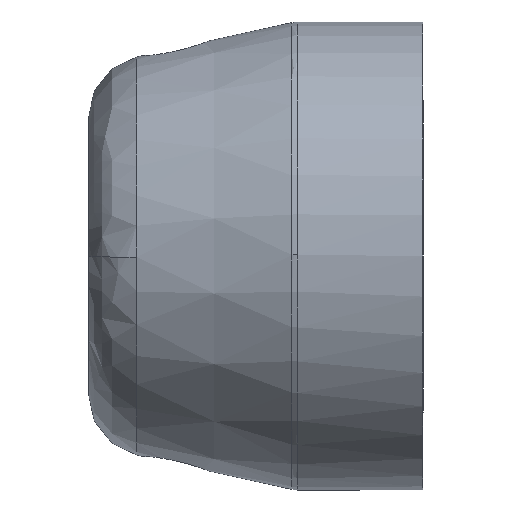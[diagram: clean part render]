
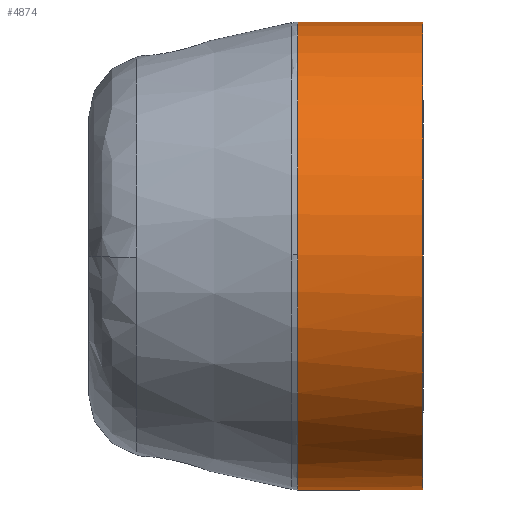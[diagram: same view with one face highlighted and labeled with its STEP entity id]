
A CAD part, left-side view. The second image highlights one B-rep face of the part: STEP entity #4874.
In plain terms, the highlighted cylindrical face has radius 42 mm (diameter 84 mm), a partial arc.
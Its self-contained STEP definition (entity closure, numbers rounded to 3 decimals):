
#183 = EDGE_CURVE ( 'NONE', #5568, #3675, #4997, .T. ) ;
#279 = DIRECTION ( 'NONE',  ( 0., 1., 0. ) ) ;
#317 = CARTESIAN_POINT ( 'NONE',  ( 0., -37.548, 42. ) ) ;
#318 = EDGE_CURVE ( 'NONE', #2990, #3675, #5541, .T. ) ;
#514 = CARTESIAN_POINT ( 'NONE',  ( 0., -60., 42. ) ) ;
#522 = EDGE_CURVE ( 'NONE', #3666, #4018, #4357, .T. ) ;
#532 = FACE_OUTER_BOUND ( 'NONE', #5843, .T. ) ;
#584 = CARTESIAN_POINT ( 'NONE',  ( 0., 0., 0. ) ) ;
#889 = DIRECTION ( 'NONE',  ( 0., 1., 0. ) ) ;
#1080 = DIRECTION ( 'NONE',  ( 0., 0., 1. ) ) ;
#1663 = AXIS2_PLACEMENT_3D ( 'NONE', #4792, #1969, #5262 ) ;
#1803 = VECTOR ( 'NONE', #889, 1000. ) ;
#1943 = CARTESIAN_POINT ( 'NONE',  ( -42., -37.548, 0.197 ) ) ;
#1969 = DIRECTION ( 'NONE',  ( 0., 1., 0. ) ) ;
#2016 = VECTOR ( 'NONE', #279, 1000. ) ;
#2025 = CARTESIAN_POINT ( 'NONE',  ( 0., -37.548, -42. ) ) ;
#2235 = CARTESIAN_POINT ( 'NONE',  ( 0., -37.548, 0. ) ) ;
#2454 = CYLINDRICAL_SURFACE ( 'NONE', #3482, 42. ) ;
#2466 = ORIENTED_EDGE ( 'NONE', *, *, #522, .F. ) ;
#2564 = ORIENTED_EDGE ( 'NONE', *, *, #318, .T. ) ;
#2706 = DIRECTION ( 'NONE',  ( 1., 0., -0.005 ) ) ;
#2956 = DIRECTION ( 'NONE',  ( 0., 1., 0. ) ) ;
#2976 = CIRCLE ( 'NONE', #4775, 42. ) ;
#2990 = VERTEX_POINT ( 'NONE', #514 ) ;
#3152 = CARTESIAN_POINT ( 'NONE',  ( 0., -60., -42. ) ) ;
#3482 = AXIS2_PLACEMENT_3D ( 'NONE', #584, #2956, #1080 ) ;
#3574 = ORIENTED_EDGE ( 'NONE', *, *, #3932, .T. ) ;
#3666 = VERTEX_POINT ( 'NONE', #3152 ) ;
#3675 = VERTEX_POINT ( 'NONE', #317 ) ;
#3932 = EDGE_CURVE ( 'NONE', #3666, #2990, #4919, .T. ) ;
#4018 = VERTEX_POINT ( 'NONE', #2025 ) ;
#4248 = ORIENTED_EDGE ( 'NONE', *, *, #4496, .F. ) ;
#4357 = LINE ( 'NONE', #5954, #2016 ) ;
#4442 = CARTESIAN_POINT ( 'NONE',  ( 0., -37.548, 0. ) ) ;
#4496 = EDGE_CURVE ( 'NONE', #4018, #5568, #2976, .T. ) ;
#4512 = CARTESIAN_POINT ( 'NONE',  ( 0., 0., 42. ) ) ;
#4706 = DIRECTION ( 'NONE',  ( 0., 1., 0. ) ) ;
#4732 = DIRECTION ( 'NONE',  ( 1., 0., -0.005 ) ) ;
#4775 = AXIS2_PLACEMENT_3D ( 'NONE', #2235, #5526, #2706 ) ;
#4792 = CARTESIAN_POINT ( 'NONE',  ( 0., -60., 0. ) ) ;
#4874 = ADVANCED_FACE ( 'NONE', ( #532 ), #2454, .T. ) ;
#4919 = CIRCLE ( 'NONE', #1663, 42. ) ;
#4997 = CIRCLE ( 'NONE', #5894, 42. ) ;
#5262 = DIRECTION ( 'NONE',  ( 0., 0., 1. ) ) ;
#5526 = DIRECTION ( 'NONE',  ( 0., 1., 0. ) ) ;
#5541 = LINE ( 'NONE', #4512, #1803 ) ;
#5568 = VERTEX_POINT ( 'NONE', #1943 ) ;
#5633 = ORIENTED_EDGE ( 'NONE', *, *, #183, .F. ) ;
#5843 = EDGE_LOOP ( 'NONE', ( #2466, #3574, #2564, #5633, #4248 ) ) ;
#5894 = AXIS2_PLACEMENT_3D ( 'NONE', #4442, #4706, #4732 ) ;
#5954 = CARTESIAN_POINT ( 'NONE',  ( 0., 0., -42. ) ) ;
